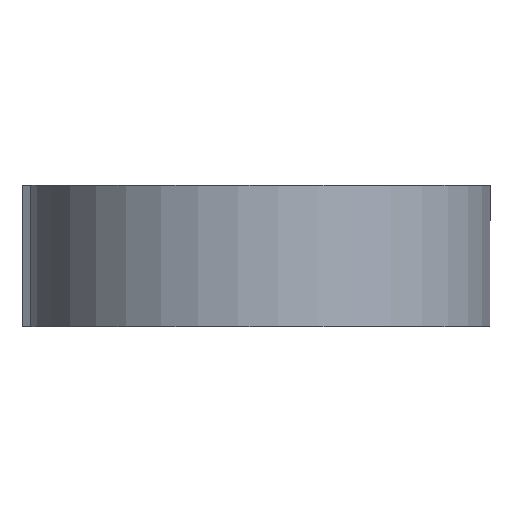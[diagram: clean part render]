
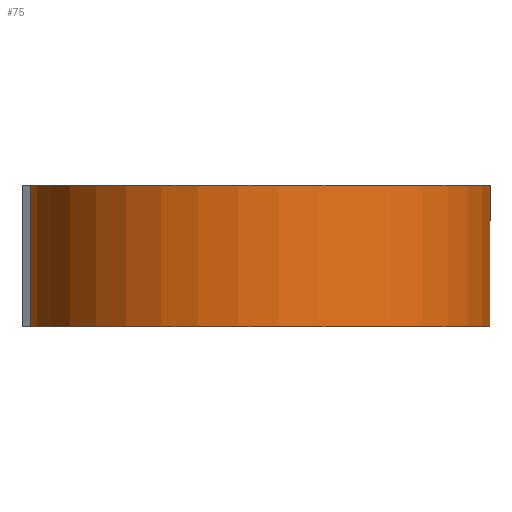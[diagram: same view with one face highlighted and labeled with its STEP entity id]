
A CAD part, front view. The second image highlights one B-rep face of the part: STEP entity #75.
In plain terms, the highlighted cylindrical face has radius 16.25 mm (diameter 32.5 mm), a partial arc.
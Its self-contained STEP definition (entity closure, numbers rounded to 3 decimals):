
#75 = ADVANCED_FACE( '', ( #101 ), #102, .T. );
#101 = FACE_OUTER_BOUND( '', #151, .T. );
#102 = CYLINDRICAL_SURFACE( '', #152, 16.25 );
#151 = EDGE_LOOP( '', ( #201, #202, #203, #204 ) );
#152 = AXIS2_PLACEMENT_3D( '', #205, #206, #207 );
#201 = ORIENTED_EDGE( '', *, *, #414, .T. );
#202 = ORIENTED_EDGE( '', *, *, #415, .T. );
#203 = ORIENTED_EDGE( '', *, *, #416, .T. );
#204 = ORIENTED_EDGE( '', *, *, #417, .T. );
#205 = CARTESIAN_POINT( '', ( 0., 0., 0. ) );
#206 = DIRECTION( '', ( 0., 0., -1. ) );
#207 = DIRECTION( '', ( 1., 0., 0. ) );
#414 = EDGE_CURVE( '', #483, #484, #485, .T. );
#415 = EDGE_CURVE( '', #484, #486, #487, .T. );
#416 = EDGE_CURVE( '', #486, #488, #489, .T. );
#417 = EDGE_CURVE( '', #488, #483, #490, .T. );
#483 = VERTEX_POINT( '', #598 );
#484 = VERTEX_POINT( '', #599 );
#485 = CIRCLE( '', #600, 16.25 );
#486 = VERTEX_POINT( '', #601 );
#487 = LINE( '', #602, #603 );
#488 = VERTEX_POINT( '', #604 );
#489 = CIRCLE( '', #605, 16.25 );
#490 = LINE( '', #606, #607 );
#598 = CARTESIAN_POINT( '', ( -9.091, 13.469, 0. ) );
#599 = CARTESIAN_POINT( '', ( 9.377, 13.272, 0. ) );
#600 = AXIS2_PLACEMENT_3D( '', #772, #773, #774 );
#601 = CARTESIAN_POINT( '', ( 9.377, 13.272, 10. ) );
#602 = CARTESIAN_POINT( '', ( 9.377, 13.272, 0. ) );
#603 = VECTOR( '', #775, 1000. );
#604 = CARTESIAN_POINT( '', ( -9.091, 13.469, 10. ) );
#605 = AXIS2_PLACEMENT_3D( '', #776, #777, #778 );
#606 = CARTESIAN_POINT( '', ( -9.091, 13.469, 0. ) );
#607 = VECTOR( '', #779, 1000. );
#772 = CARTESIAN_POINT( '', ( 0., 0., 0. ) );
#773 = DIRECTION( '', ( 0., 0., 1. ) );
#774 = DIRECTION( '', ( 1., 0., 0. ) );
#775 = DIRECTION( '', ( 0., 0., 1. ) );
#776 = CARTESIAN_POINT( '', ( 0., 0., 10. ) );
#777 = DIRECTION( '', ( 0., 0., -1. ) );
#778 = DIRECTION( '', ( 1., 0., 0. ) );
#779 = DIRECTION( '', ( 0., 0., -1. ) );
